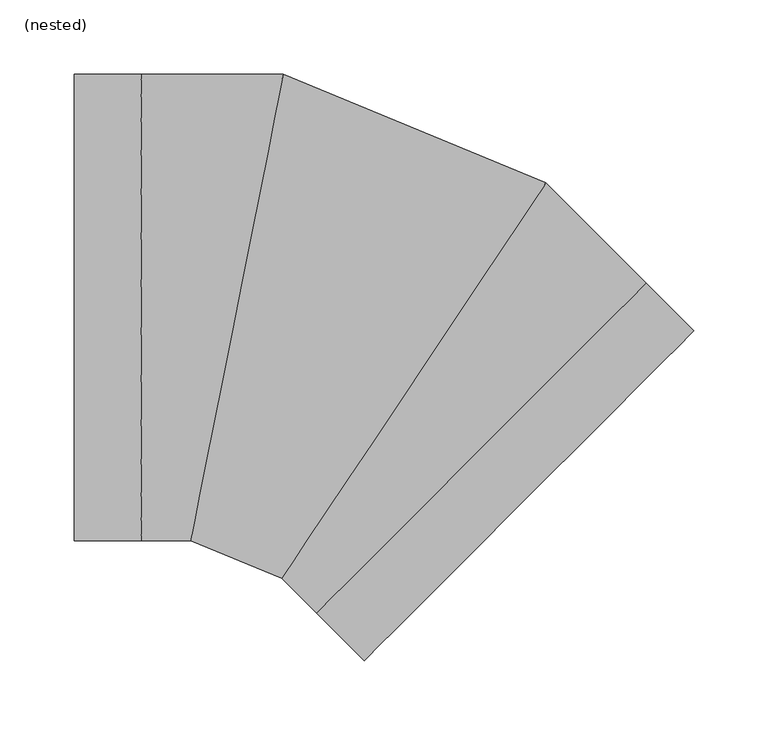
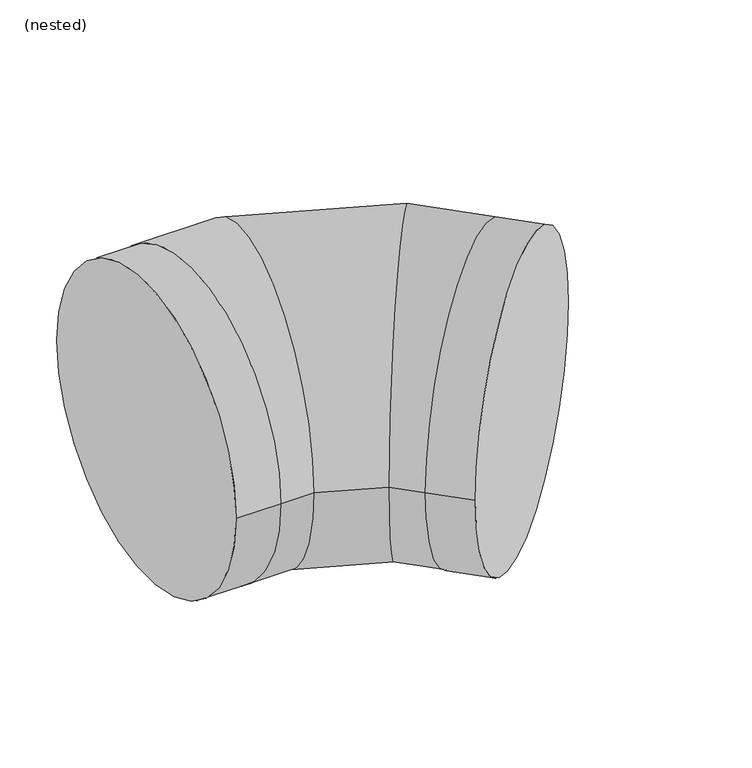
"""IFC4 building model written with IfcOpenShell, lengths in millimetres: pipe fitting geometry, NLRS_52_PIF_UN_PE segmentbocht_SH_geb : (nested)."""

from ifc_helpers import new_model, si_unit, frame, origin, place, context, project, spatial, circle_curve, ellipse_curve, source, transform, mapped, element, save
from ifc_brep_helpers import plane_surface, cylinder_surface, advanced_brep


def nested_1662fd97(model_context):
    return source(origin(), model_context, "Body", "AdvancedBrep", [
        advanced_brep(
        [(-180.0, 157.5, 0.0), (-180.0, -157.5, 0.0), (-134.6194078, -157.5, 0.0), (-134.6194078, 157.5, 0.0), (-101.3015862, -157.5, 0.0), (-38.6441905, 157.5, 0.0), (-39.7382795, -183.0003566, 0.0), (138.6948872, 84.0437489, 0.0), (238.6485387, -15.9099026, 0.0), (15.9099026, -238.6485387, 0.0), (-16.1790219, -206.5596142, 0.0), (206.5596142, 16.1790219, 0.0)],
        [
            (0, 1, circle_curve(frame((-180.0, 0.0, 0.0), z_axis=(-1.0, 0.0, 0.0), x_axis=(0.0, -1.0, 0.0)), 157.5)),
            (1, 0, circle_curve(frame((-180.0, 0.0, 0.0), z_axis=(-1.0, 0.0, 0.0), x_axis=(0.0, -1.0, 0.0)), 157.5)),
            (1, 2),
            (2, 3, circle_curve(frame((-134.6194078, 0.0, 0.0), z_axis=(-1.0, 0.0, 0.0), x_axis=(0.0, -1.0, 0.0)), 157.5)),
            (3, 0),
            (3, 2, circle_curve(frame((-134.6194078, 0.0, 0.0), z_axis=(-1.0, 0.0, 0.0), x_axis=(0.0, -1.0, 0.0)), 157.5)),
            (2, 4),
            (4, 5, ellipse_curve(frame((-69.9728884, 0.0, 0.0), z_axis=(-0.9807852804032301, 0.19509032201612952, 0.0), x_axis=(-0.1950903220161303, -0.98078528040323, 0.0)), 160.5856074, 157.5)),
            (5, 3),
            (5, 4, ellipse_curve(frame((-69.9728884, 0.0, 0.0), z_axis=(-0.9807852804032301, 0.19509032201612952, 0.0), x_axis=(-0.1950903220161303, -0.98078528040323, 0.0)), 160.5856074, 157.5)),
            (4, 6),
            (6, 7, ellipse_curve(frame((49.4783039, -49.4783039, 0.0), z_axis=(-0.8314696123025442, 0.5555702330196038, 0.0), x_axis=(-0.5555702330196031, -0.8314696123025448, 0.0)), 160.5856074, 157.5)),
            (7, 5),
            (7, 6, ellipse_curve(frame((49.4783039, -49.4783039, 0.0), z_axis=(-0.8314696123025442, 0.5555702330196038, 0.0), x_axis=(-0.5555702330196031, -0.8314696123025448, 0.0)), 160.5856074, 157.5)),
            (8, 9, circle_curve(frame((127.2792206, -127.2792206, 0.0), z_axis=(0.7071067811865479, -0.7071067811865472, 0.0), x_axis=(-0.7071067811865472, -0.7071067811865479, 0.0)), 157.5)),
            (9, 8, circle_curve(frame((127.2792206, -127.2792206, 0.0), z_axis=(0.7071067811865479, -0.7071067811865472, 0.0), x_axis=(-0.7071067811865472, -0.7071067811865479, 0.0)), 157.5)),
            (10, 9),
            (8, 11),
            (11, 10, circle_curve(frame((95.1902961, -95.1902961, 0.0), z_axis=(0.7071067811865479, -0.7071067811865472, 0.0), x_axis=(-0.7071067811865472, -0.7071067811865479, 0.0)), 157.5)),
            (10, 11, circle_curve(frame((95.1902961, -95.1902961, 0.0), z_axis=(0.7071067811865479, -0.7071067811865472, 0.0), x_axis=(-0.7071067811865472, -0.7071067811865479, 0.0)), 157.5)),
            (6, 10),
            (11, 7),
        ],
        [
            plane_surface(frame((-180.0, 0.0, 0.0), z_axis=(-1.0, 0.0, 0.0), x_axis=(0.0, 0.0, 1.0))),
            cylinder_surface(frame((-180.0, 0.0, 0.0), z_axis=(-1.0, 0.0, 0.0), x_axis=(0.0, -1.0, 0.0)), 157.5),
            cylinder_surface(frame((-134.6194078, 0.0, 0.0), z_axis=(-1.0, 0.0, 0.0), x_axis=(0.0, -1.0, 0.0)), 157.5),
            cylinder_surface(frame((-69.9728884, 0.0, 0.0), z_axis=(-0.9238795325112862, 0.3826834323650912, 0.0), x_axis=(-0.3826834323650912, -0.9238795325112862, 0.0)), 157.5),
            plane_surface(frame((127.2792206, -127.2792206, 0.0), z_axis=(0.707106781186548, -0.7071067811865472, 0.0), x_axis=(0.0, 0.0, 1.0))),
            cylinder_surface(frame((95.1902961, -95.1902961, 0.0), z_axis=(-0.7071067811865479, 0.7071067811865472, 0.0), x_axis=(-0.7071067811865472, -0.7071067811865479, 0.0)), 157.5),
            cylinder_surface(frame((49.4783039, -49.4783039, 0.0), z_axis=(-0.7071067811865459, 0.7071067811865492, 0.0), x_axis=(-0.7071067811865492, -0.7071067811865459, 0.0)), 157.5),
        ],
        [
            (0, [[1, 2]]),
            (1, [[3, 4, 5, -2]]),
            (1, [[-5, 6, -3, -1]]),
            (2, [[7, 8, 9, -4]]),
            (2, [[-9, 10, -7, -6]]),
            (3, [[11, 12, 13, -8]]),
            (3, [[-13, 14, -11, -10]]),
            (4, [[15, 16]]),
            (5, [[17, -15, 18, 19]]),
            (5, [[-18, -16, -17, 20]]),
            (6, [[21, -19, 22, -12]]),
            (6, [[-22, -20, -21, -14]]),
        ],
    ),
    ])


if __name__ == "__main__":
    model = new_model("IFC4")
    model_context = context("Model", 3, world=origin())
    ifc_project = project(units=[si_unit("LENGTHUNIT", "METRE", prefix="MILLI")], contexts=[model_context])
    site = spatial("IfcSite", under=ifc_project)
    building = spatial("IfcBuilding", under=site)
    placement = place(None, origin())
    nested_shape = nested_1662fd97(model_context)
    element("IfcPipeFitting", 1, ObjectType="NLRS_52_PIF_UN_PE segmentbocht_SH_geb : (nested)", at=placement, inside=building, context=model_context, shape_type="MappedRepresentation", body=[
        mapped(nested_shape, transform((0.0, 0.0, 0.0), x_axis=(1.0, 0.0, 0.0), y_axis=(0.0, 1.0, 0.0), z_axis=(0.0, 0.0, 1.0))),
    ])
    save(model, "model.ifc")
